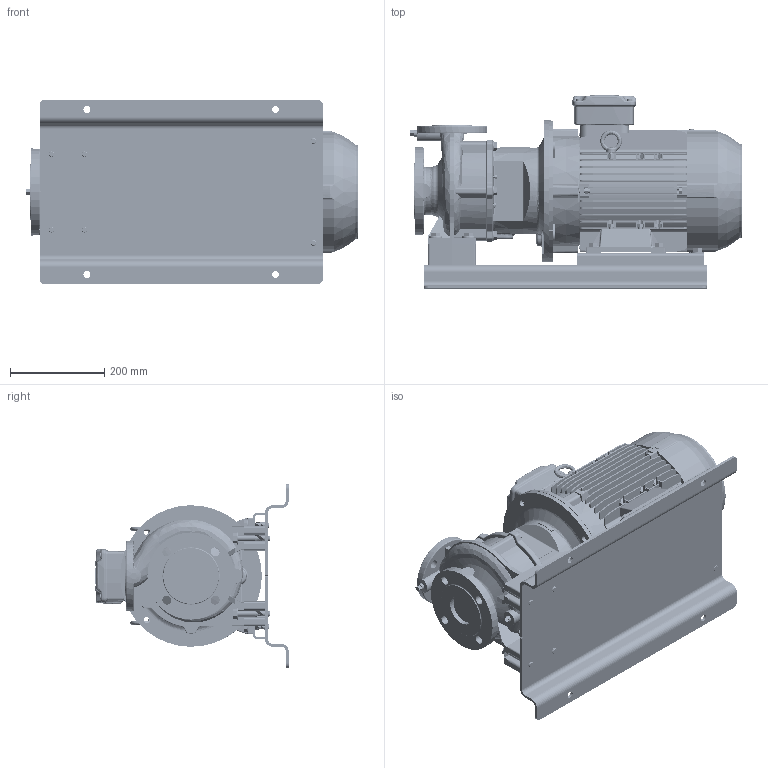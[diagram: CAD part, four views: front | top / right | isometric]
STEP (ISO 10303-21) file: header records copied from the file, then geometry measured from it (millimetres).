
FILE_DESCRIPTION (( 'STEP AP203' ), '1' );
FILE_NAME ('GSD2 40-125_5.5_(132S)_W21_BP.STEP', '2023-10-04T01:01:32', ( '' ), ( '' ), 'SwSTEP 2.0', 'SolidWorks 2019', '' );
FILE_SCHEMA (( 'CONFIG_CONTROL_DESIGN' ));
Length unit declared in the file: millimetre
Products named in the file (22): 140_178 x 25 - CGSDA-5240; GSD2  40-125_5.5_(132S)_W21_BP; Parametric bolt and washer_SFT-A315B; Parametric bolt and washer_SFT-A253B; Parametric Flat Washer_M10; CGS11-5301_2_3_4_5_CGS11-5301; Parametric Flat Washer_M12; 132S ALIE3_W21T_B35; 40-125-132S; CGS11-5301_2_3_4_5_CGS11-5302; N3S3 GSDA-334 F1-1832906-00; Parametric bolt and washer_SFT-A301B; Parametric bolt_SFT-A315B; Parametric bolt_SFT-A253B; Parametric bolt_SFT-A301B
Assembly tree (39 placements, depth 3):
  GSD2  40-125_5.5_(132S)_W21_BP
    40-125-132S
    N3S3 GSDA-334 F1-1832906-00
    CGS11-5301_2_3_4_5_CGS11-5301  x2
    CGS11-5301_2_3_4_5_CGS11-5302  x2
    140_178 x 25 - CGSDA-5240  x2
    Parametric bolt and washer_SFT-A315B
      Parametric bolt_SFT-A315B
      Parametric Flat Washer_M12
    Parametric bolt and washer_SFT-A315B
      Parametric bolt_SFT-A315B
      Parametric Flat Washer_M12
    Parametric bolt and washer_SFT-A315B
      Parametric bolt_SFT-A315B
      Parametric Flat Washer_M12
    Parametric bolt and washer_SFT-A315B
      Parametric bolt_SFT-A315B
      Parametric Flat Washer_M12
    Parametric bolt and washer_SFT-A301B
      Parametric bolt_SFT-A301B
      Parametric Flat Washer_M12
    Parametric bolt and washer_SFT-A301B
      Parametric bolt_SFT-A301B
      Parametric Flat Washer_M12
    Parametric bolt and washer_SFT-A253B
      Parametric bolt_SFT-A253B
      Parametric Flat Washer_M10
    Parametric bolt and washer_SFT-A253B
      Parametric bolt_SFT-A253B
      Parametric Flat Washer_M10
    Parametric bolt and washer_SFT-A253B
      Parametric bolt_SFT-A253B
      Parametric Flat Washer_M10
    Parametric bolt and washer_SFT-A253B
      Parametric bolt_SFT-A253B
      Parametric Flat Washer_M10
    132S ALIE3_W21T_B35
Bounding box: 704 x 410 x 390 mm (x, y, z)
Volume: 27927523.7 mm3; surface area: 2452480.3 mm2
Topology: 41 solids, 41 shells, 4940 faces, 12938 edges, 8421 vertices
Faces by surface type: plane 2951, cylinder 1192, torus 296, bspline 256, cone 213, sphere 32
Entity records: 171778 total; most frequent: CARTESIAN_POINT 60766, ORIENTED_EDGE 23340, DIRECTION 21221, EDGE_CURVE 11670, VECTOR 7825, LINE 7825, VERTEX_POINT 7602, AXIS2_PLACEMENT_3D 6698
